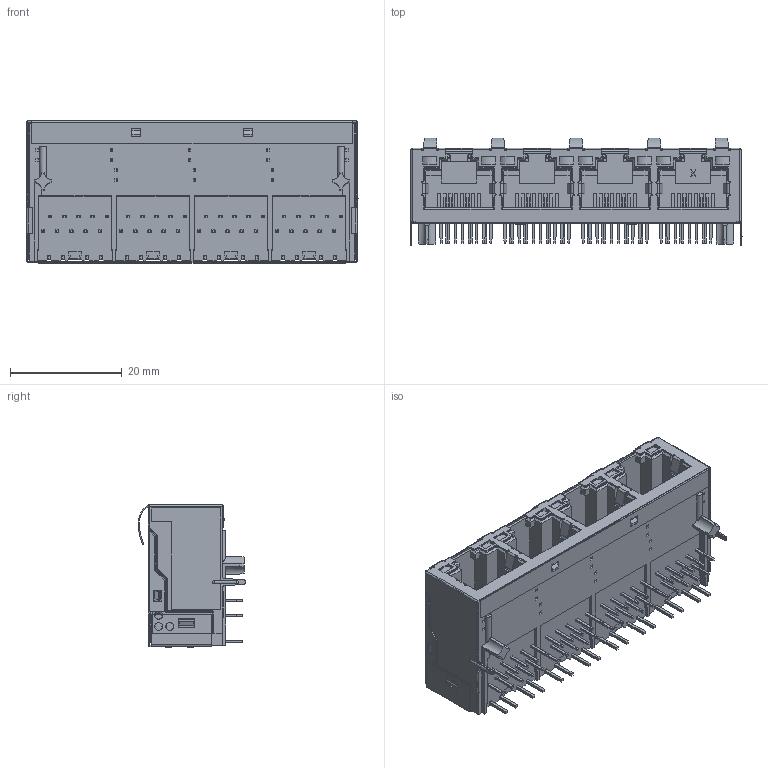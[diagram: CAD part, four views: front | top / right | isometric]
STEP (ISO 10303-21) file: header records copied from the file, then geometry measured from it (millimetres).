
FILE_DESCRIPTION((''),'2;1');
FILE_NAME('PRT0012','2024-06-01T14:56:49',('Administrator'),(''),'CREO PARAMETRIC BY PTC INC, 2020053','CREO PARAMETRIC BY PTC INC, 2020053','');
FILE_SCHEMA(('CONFIG_CONTROL_DESIGN'));
Products named in the file (1): PRT0012
Bounding box: 59.43 x 19.25 x 25.46 mm (x, y, z)
Volume: 13643.7 mm3; surface area: 20919.4 mm2
Topology: 2 solids, 3 shells, 4189 faces, 11983 edges, 7803 vertices
Faces by surface type: plane 3512, cylinder 519, bspline 94, torus 44, sphere 20
Entity records: 137691 total; most frequent: CARTESIAN_POINT 28183, ORIENTED_EDGE 23942, DIRECTION 20968, EDGE_CURVE 11972, VECTOR 10586, LINE 10586, VERTEX_POINT 7803, AXIS2_PLACEMENT_3D 5191
